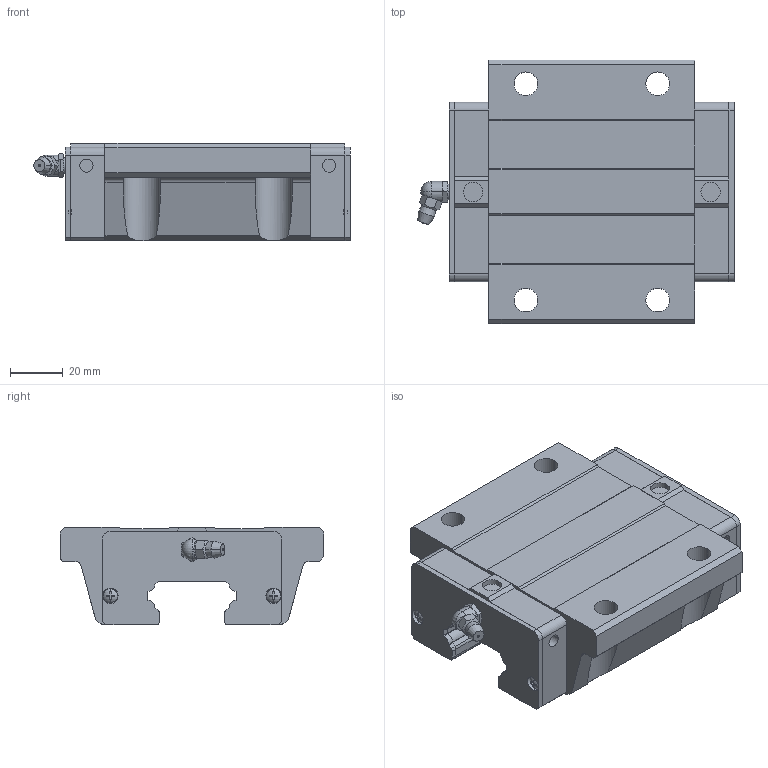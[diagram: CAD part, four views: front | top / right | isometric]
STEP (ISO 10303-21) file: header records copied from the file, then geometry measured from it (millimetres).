
FILE_DESCRIPTION(('starvars output'),'2;1');
FILE_NAME('cv20190626223931000075206.stp','22:39:32 2019/06/26',( 'Thomas Industrial Network Germany GmbH'),( 'Thomas Industrial Network Germany GmbH'),'unknown preprocess','ACIS' ,'unknown authorization');
FILE_SCHEMA(('CONFIG_CONTROL_DESIGN {UNKNOWN IMPLEMENTATION LEVEL}'));
Length unit declared in the file: millimetre
Products named in the file (10): PRODUCT_ID_1; PRODUCT_ID_2; PRODUCT_ID_3; PRODUCT_ID_4; PRODUCT_ID_5; PRODUCT_ID_6; PRODUCT_ID_7; PRODUCT_ID_8; PRODUCT_ID_9; PRODUCT_ID_10
Bounding box: 120 x 100 x 37 mm (x, y, z)
Volume: 259171.7 mm3; surface area: 54800.3 mm2
Topology: 10 solids, 10 shells, 443 faces, 1194 edges, 780 vertices
Faces by surface type: plane 247, cylinder 144, cone 40, sphere 12
Entity records: 13582 total; most frequent: ORIENTED_EDGE 2380, CARTESIAN_POINT 2242, DIRECTION 1997, EDGE_CURVE 1190, VERTEX_POINT 780, VECTOR 675, LINE 675, AXIS2_PLACEMENT_3D 661
